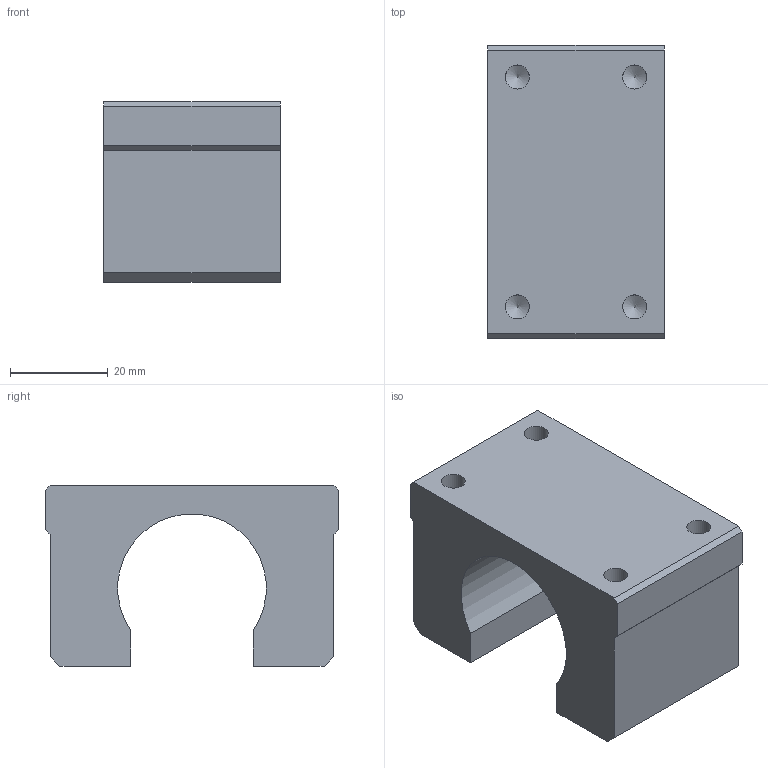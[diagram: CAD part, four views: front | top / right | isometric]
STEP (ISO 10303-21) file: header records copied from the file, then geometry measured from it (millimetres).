
FILE_DESCRIPTION((''),'2;1');
FILE_NAME('D:\製品 (図面)\カタログ用3D\ネジ関連\STEP形式\NH\NH12.stp','2010-06-02T14:39:08',('Tsuchiya'),(''),'Autodesk Inventor 10','Autodesk Inventor 10','');
FILE_SCHEMA(('AUTOMOTIVE_DESIGN { 1 0 10303 214 1 1 1 1 }'));
Length unit declared in the file: millimetre
Products named in the file (1): NH12
Bounding box: 36 x 60 x 37 mm (x, y, z)
Volume: 47962.4 mm3; surface area: 12601.7 mm2
Topology: 1 solids, 1 shells, 34 faces, 96 edges, 64 vertices
Faces by surface type: plane 17, bspline 16, cylinder 1
Entity records: 1105 total; most frequent: CARTESIAN_POINT 419, ORIENTED_EDGE 128, DIRECTION 120, EDGE_CURVE 64, EDGE_LOOP 50, VERTEX_POINT 48, VECTOR 46, LINE 46
